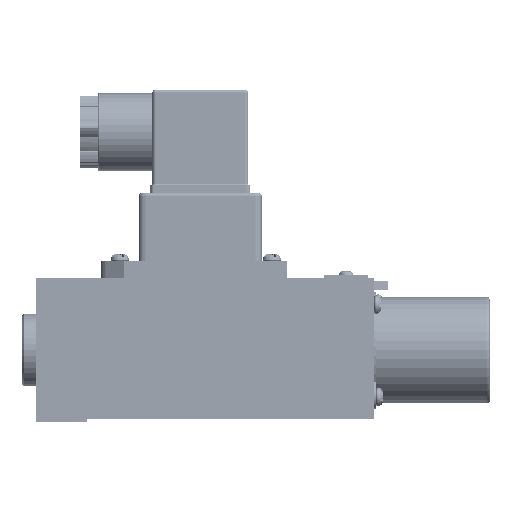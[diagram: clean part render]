
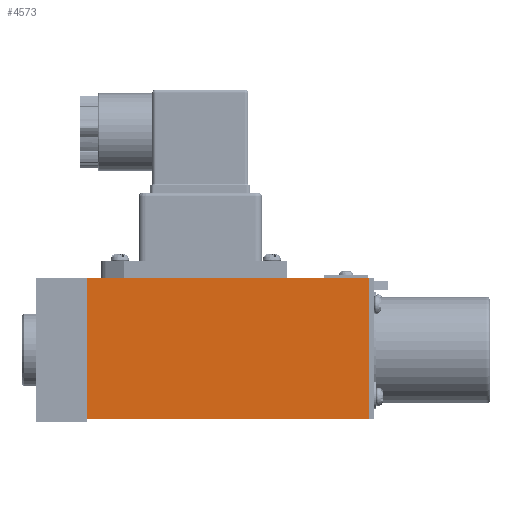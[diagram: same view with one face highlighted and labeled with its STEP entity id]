
A CAD part, front view. The second image highlights one B-rep face of the part: STEP entity #4573.
In plain terms, the highlighted planar face has unit normal (0, -1, 0).
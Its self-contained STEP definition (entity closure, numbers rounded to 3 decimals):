
#1343=PLANE('',#15900);
#1820=LINE('',#26507,#2919);
#1826=LINE('',#26598,#2925);
#1827=LINE('',#26766,#2926);
#1834=LINE('',#26780,#2933);
#2919=VECTOR('',#17151,1.);
#2925=VECTOR('',#17169,1.);
#2926=VECTOR('',#17190,1.);
#2933=VECTOR('',#17199,1.);
#4573=ADVANCED_FACE('',(#5693),#1343,.F.);
#5693=FACE_OUTER_BOUND('',#6420,.T.);
#6420=EDGE_LOOP('',(#7675,#7676,#7677,#7678));
#7675=ORIENTED_EDGE('',*,*,#13250,.T.);
#7676=ORIENTED_EDGE('',*,*,#13265,.F.);
#7677=ORIENTED_EDGE('',*,*,#13290,.F.);
#7678=ORIENTED_EDGE('',*,*,#13283,.T.);
#11791=VERTEX_POINT('',#26508);
#11792=VERTEX_POINT('',#26509);
#11805=VERTEX_POINT('',#26597);
#11823=VERTEX_POINT('',#26767);
#13250=EDGE_CURVE('',#11791,#11792,#1820,.T.);
#13265=EDGE_CURVE('',#11805,#11792,#1826,.T.);
#13283=EDGE_CURVE('',#11823,#11791,#1827,.T.);
#13290=EDGE_CURVE('',#11823,#11805,#1834,.T.);
#15900=AXIS2_PLACEMENT_3D('',#26781,#17200,#17201);
#17151=DIRECTION('',(-1.,0.,0.));
#17169=DIRECTION('',(0.,0.,1.));
#17190=DIRECTION('',(0.,0.,1.));
#17199=DIRECTION('',(-1.,0.,0.));
#17200=DIRECTION('',(0.,1.,0.));
#17201=DIRECTION('',(0.,0.,-1.));
#26507=CARTESIAN_POINT('',(214.295,65.73,0.));
#26508=CARTESIAN_POINT('',(214.295,65.73,0.));
#26509=CARTESIAN_POINT('',(136.295,65.73,0.));
#26597=CARTESIAN_POINT('',(136.295,65.73,-39.));
#26598=CARTESIAN_POINT('',(136.295,65.73,-39.));
#26766=CARTESIAN_POINT('',(214.295,65.73,-39.));
#26767=CARTESIAN_POINT('',(214.295,65.73,-39.));
#26780=CARTESIAN_POINT('',(214.295,65.73,-39.));
#26781=CARTESIAN_POINT('',(214.295,65.73,-39.));
